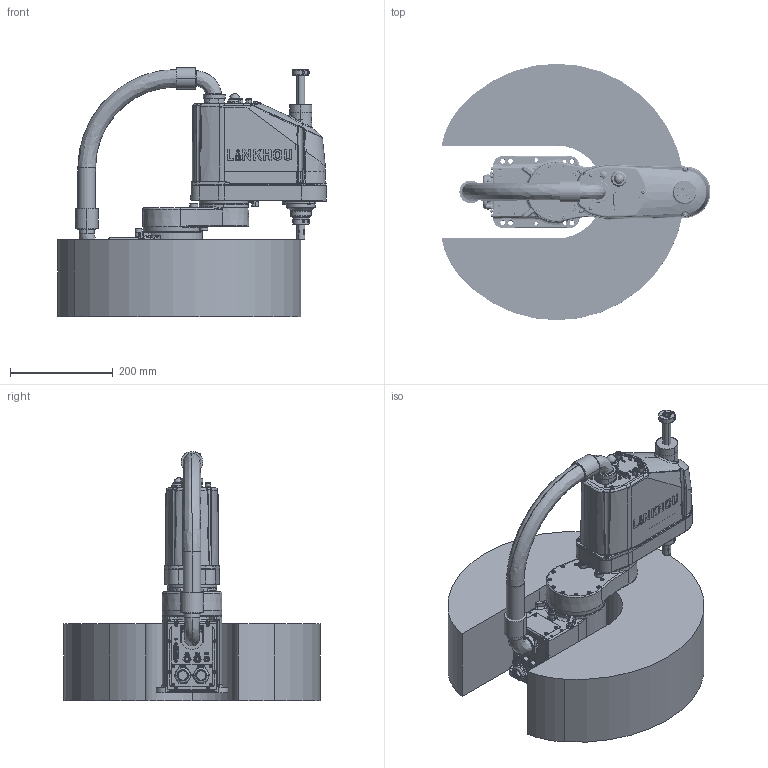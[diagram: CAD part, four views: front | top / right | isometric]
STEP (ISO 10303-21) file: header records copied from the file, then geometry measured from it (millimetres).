
FILE_DESCRIPTION (( 'STEP AP214' ), '1' );
FILE_NAME ('TM5A-R250湍堍雄毓峓衄logo2017.STEP', '2023-12-26T12:33:20', ( '' ), ( '' ), 'SwSTEP 2.0', 'SolidWorks 2017', '' );
FILE_SCHEMA (( 'AUTOMOTIVE_DESIGN' ));
Length unit declared in the file: millimetre
Products named in the file (8): 小臂logo^TM5A-R250带运动范围有logo2017; 250本体线束^TM5A-R250带运动范围有logo2017; 250大臂^TM5A-R250带运动范围有logo2017; 本体线束接头^TM5A-R250带运动范围有logo2017; 底座^TM5A-R250带运动范围有logo2017; 250运动范围^TM5A-R250带运动范围有logo2017; TM5A-R250湍堍雄毓峓衄logo2017; 复件 丝杆^TM5A-R250带运动范围有logo2017
Assembly tree (7 placements, depth 2):
  TM5A-R250湍堍雄毓峓衄logo2017
    底座^TM5A-R250带运动范围有logo2017
    250大臂^TM5A-R250带运动范围有logo2017
    小臂logo^TM5A-R250带运动范围有logo2017
    本体线束接头^TM5A-R250带运动范围有logo2017
    250本体线束^TM5A-R250带运动范围有logo2017
    复件 丝杆^TM5A-R250带运动范围有logo2017
    250运动范围^TM5A-R250带运动范围有logo2017
Bounding box: 524.38 x 500 x 485.7 mm (x, y, z)
Volume: 26034079.9 mm3; surface area: 1358743.5 mm2
Topology: 31 solids, 86 shells, 5269 faces, 13724 edges, 8848 vertices
Faces by surface type: plane 2234, bspline 1149, cylinder 1130, cone 752, torus 4
Entity records: 250701 total; most frequent: CARTESIAN_POINT 104055, ORIENTED_EDGE 27114, DIRECTION 20597, EDGE_CURVE 13557, VERTEX_POINT 8848, AXIS2_PLACEMENT_3D 7008, VECTOR 6581, LINE 6581
